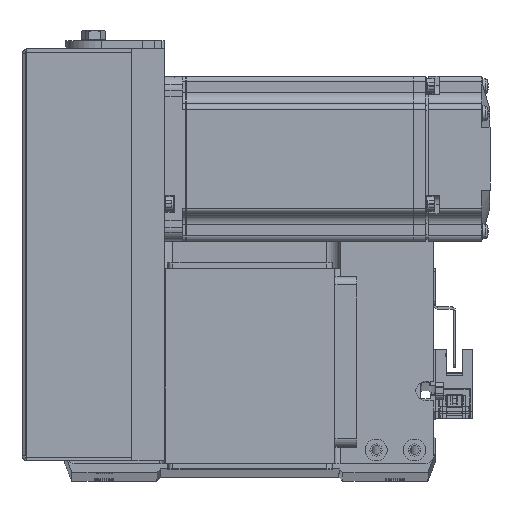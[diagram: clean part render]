
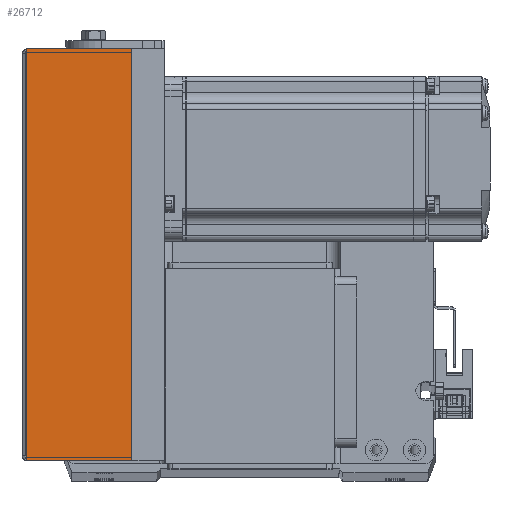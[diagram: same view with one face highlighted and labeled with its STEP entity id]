
A CAD part, top view. The second image highlights one B-rep face of the part: STEP entity #26712.
In plain terms, the highlighted planar face has unit normal (0, 0, 1) as drawn and (0, 1, 0) by its records, which use the part's own axes.
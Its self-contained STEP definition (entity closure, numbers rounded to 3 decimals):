
#858 = CARTESIAN_POINT ( 'NONE',  ( 0., 36., 50.8 ) ) ;
#1064 = PLANE ( 'NONE',  #28964 ) ;
#4160 = EDGE_CURVE ( 'NONE', #12335, #5341, #33196, .T. ) ;
#4994 = LINE ( 'NONE', #27631, #17916 ) ;
#5341 = VERTEX_POINT ( 'NONE', #39331 ) ;
#8067 = LINE ( 'NONE', #39527, #17693 ) ;
#8801 = ORIENTED_EDGE ( 'NONE', *, *, #14262, .T. ) ;
#10063 = DIRECTION ( 'NONE',  ( 0., 0., 1. ) ) ;
#10527 = CARTESIAN_POINT ( 'NONE',  ( 75., 36., 50.3 ) ) ;
#11924 = VERTEX_POINT ( 'NONE', #14003 ) ;
#12335 = VERTEX_POINT ( 'NONE', #19664 ) ;
#13214 = FACE_OUTER_BOUND ( 'NONE', #16687, .T. ) ;
#14003 = CARTESIAN_POINT ( 'NONE',  ( -75., 36., 50.3 ) ) ;
#14207 = EDGE_CURVE ( 'NONE', #12335, #11924, #14399, .T. ) ;
#14262 = EDGE_CURVE ( 'NONE', #5341, #28948, #4994, .T. ) ;
#14399 = LINE ( 'NONE', #31198, #15210 ) ;
#15210 = VECTOR ( 'NONE', #36872, 1000. ) ;
#16687 = EDGE_LOOP ( 'NONE', ( #20500, #19338, #8801, #23020 ) ) ;
#17693 = VECTOR ( 'NONE', #36403, 1000. ) ;
#17916 = VECTOR ( 'NONE', #27426, 1000. ) ;
#19338 = ORIENTED_EDGE ( 'NONE', *, *, #4160, .T. ) ;
#19664 = CARTESIAN_POINT ( 'NONE',  ( 75., 36., 50.3 ) ) ;
#20500 = ORIENTED_EDGE ( 'NONE', *, *, #14207, .F. ) ;
#22090 = VECTOR ( 'NONE', #23361, 1000. ) ;
#23020 = ORIENTED_EDGE ( 'NONE', *, *, #34881, .F. ) ;
#23361 = DIRECTION ( 'NONE',  ( 0., 0., -1. ) ) ;
#24397 = CARTESIAN_POINT ( 'NONE',  ( -75., 36., 12. ) ) ;
#26712 = ADVANCED_FACE ( 'NONE', ( #13214 ), #1064, .F. ) ;
#27426 = DIRECTION ( 'NONE',  ( -1., 0., 0. ) ) ;
#27631 = CARTESIAN_POINT ( 'NONE',  ( 0., 36., 12. ) ) ;
#28948 = VERTEX_POINT ( 'NONE', #24397 ) ;
#28964 = AXIS2_PLACEMENT_3D ( 'NONE', #858, #36103, #10063 ) ;
#31198 = CARTESIAN_POINT ( 'NONE',  ( -75., 36., 50.3 ) ) ;
#33196 = LINE ( 'NONE', #10527, #22090 ) ;
#34881 = EDGE_CURVE ( 'NONE', #11924, #28948, #8067, .T. ) ;
#36103 = DIRECTION ( 'NONE',  ( 0., -1., 0. ) ) ;
#36403 = DIRECTION ( 'NONE',  ( 0., 0., -1. ) ) ;
#36872 = DIRECTION ( 'NONE',  ( -1., 0., 0. ) ) ;
#39331 = CARTESIAN_POINT ( 'NONE',  ( 75., 36., 12. ) ) ;
#39527 = CARTESIAN_POINT ( 'NONE',  ( -75., 36., 50.3 ) ) ;
